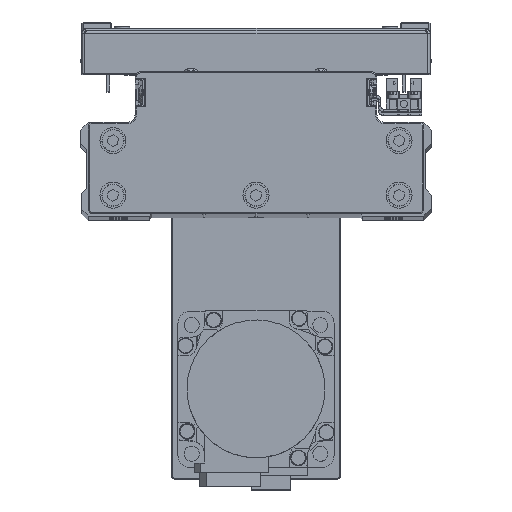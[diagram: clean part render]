
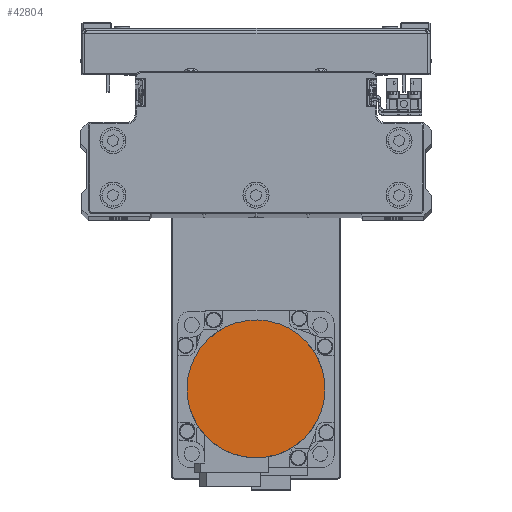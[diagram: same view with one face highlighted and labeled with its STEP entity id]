
A CAD part, top view. The second image highlights one B-rep face of the part: STEP entity #42804.
In plain terms, the highlighted planar face has unit normal (0, 0, 1) as drawn and (0, 0, -1) by its records, which use the part's own axes.
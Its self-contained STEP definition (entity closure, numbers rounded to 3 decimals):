
#839 = PLANE ( 'NONE',  #8414 ) ;
#861 = CARTESIAN_POINT ( 'NONE',  ( -16.165, -21.07, -109.7 ) ) ;
#1074 = CARTESIAN_POINT ( 'NONE',  ( 16.165, -21.07, -109.7 ) ) ;
#1288 = EDGE_LOOP ( 'NONE', ( #41253, #35208 ) ) ;
#1605 = CARTESIAN_POINT ( 'NONE',  ( 26.329, 3.469, -109.7 ) ) ;
#1830 = CARTESIAN_POINT ( 'NONE',  ( 3.469, 26.329, -109.7 ) ) ;
#2056 = CARTESIAN_POINT ( 'NONE',  ( -23.819, 11.744, -109.7 ) ) ;
#4231 = CARTESIAN_POINT ( 'NONE',  ( -21.07, -16.165, -109.7 ) ) ;
#4457 = CARTESIAN_POINT ( 'NONE',  ( 8.539, -25.147, -109.7 ) ) ;
#4675 = CARTESIAN_POINT ( 'NONE',  ( 26.5, 0., -109.7 ) ) ;
#5213 = CARTESIAN_POINT ( 'NONE',  ( 11.744, 23.819, -109.7 ) ) ;
#5427 = CARTESIAN_POINT ( 'NONE',  ( -19.965, 17.512, -109.7 ) ) ;
#7604 = CARTESIAN_POINT ( 'NONE',  ( -25.147, -8.539, -109.7 ) ) ;
#7829 = CARTESIAN_POINT ( 'NONE',  ( 1.734, -26.5, -109.7 ) ) ;
#8055 = CARTESIAN_POINT ( 'NONE',  ( 25.652, -6.871, -109.7 ) ) ;
#8414 = AXIS2_PLACEMENT_3D ( 'NONE', #14570, #28210, #41862 ) ;
#8584 = CARTESIAN_POINT ( 'NONE',  ( 17.512, 19.965, -109.7 ) ) ;
#8810 = CARTESIAN_POINT ( 'NONE',  ( -13.28, 22.998, -109.7 ) ) ;
#10985 = CARTESIAN_POINT ( 'NONE',  ( -26.5, -1.734, -109.7 ) ) ;
#11200 = CARTESIAN_POINT ( 'NONE',  ( -6.871, -25.652, -109.7 ) ) ;
#11439 = CARTESIAN_POINT ( 'NONE',  ( 22.998, -13.28, -109.7 ) ) ;
#11953 = CARTESIAN_POINT ( 'NONE',  ( 22.998, 13.28, -109.7 ) ) ;
#12189 = CARTESIAN_POINT ( 'NONE',  ( -6.871, 25.652, -109.7 ) ) ;
#12410 = CARTESIAN_POINT ( 'NONE',  ( -26.5, 1.734, -109.7 ) ) ;
#13160 = CARTESIAN_POINT ( 'NONE',  ( 26.5, 0., -109.7 ) ) ;
#14570 = CARTESIAN_POINT ( 'NONE',  ( 0., 0., -109.7 ) ) ;
#14591 = CARTESIAN_POINT ( 'NONE',  ( -13.28, -22.998, -109.7 ) ) ;
#14810 = CARTESIAN_POINT ( 'NONE',  ( 17.512, -19.965, -109.7 ) ) ;
#15340 = CARTESIAN_POINT ( 'NONE',  ( 25.652, 6.871, -109.7 ) ) ;
#15566 = CARTESIAN_POINT ( 'NONE',  ( 1.734, 26.5, -109.7 ) ) ;
#15794 = CARTESIAN_POINT ( 'NONE',  ( -25.147, 8.539, -109.7 ) ) ;
#17966 = CARTESIAN_POINT ( 'NONE',  ( -19.965, -17.512, -109.7 ) ) ;
#18185 = CARTESIAN_POINT ( 'NONE',  ( 11.744, -23.819, -109.7 ) ) ;
#18712 = CARTESIAN_POINT ( 'NONE',  ( 26.5, 0., -109.7 ) ) ;
#18934 = CARTESIAN_POINT ( 'NONE',  ( 8.539, 25.147, -109.7 ) ) ;
#19153 = CARTESIAN_POINT ( 'NONE',  ( -21.07, 16.165, -109.7 ) ) ;
#21308 = CARTESIAN_POINT ( 'NONE',  ( -23.819, -11.744, -109.7 ) ) ;
#21545 = CARTESIAN_POINT ( 'NONE',  ( 3.469, -26.329, -109.7 ) ) ;
#21761 = CARTESIAN_POINT ( 'NONE',  ( 26.329, -3.469, -109.7 ) ) ;
#22296 = CARTESIAN_POINT ( 'NONE',  ( 16.165, 21.07, -109.7 ) ) ;
#22512 = CARTESIAN_POINT ( 'NONE',  ( -16.165, 21.07, -109.7 ) ) ;
#23708 = EDGE_CURVE ( 'NONE', #41183, #24450, #29704, .T. ) ;
#24450 = VERTEX_POINT ( 'NONE', #13160 ) ;
#24680 = CARTESIAN_POINT ( 'NONE',  ( -26.329, -3.469, -109.7 ) ) ;
#24892 = CARTESIAN_POINT ( 'NONE',  ( -3.469, -26.329, -109.7 ) ) ;
#25126 = CARTESIAN_POINT ( 'NONE',  ( 23.819, -11.744, -109.7 ) ) ;
#25642 = CARTESIAN_POINT ( 'NONE',  ( 21.07, 16.165, -109.7 ) ) ;
#25880 = CARTESIAN_POINT ( 'NONE',  ( -8.539, 25.147, -109.7 ) ) ;
#26090 = CARTESIAN_POINT ( 'NONE',  ( -26.5, 0., -109.7 ) ) ;
#28210 = DIRECTION ( 'NONE',  ( 0., 0., 1. ) ) ;
#28232 = CARTESIAN_POINT ( 'NONE',  ( -11.744, -23.819, -109.7 ) ) ;
#28442 = CARTESIAN_POINT ( 'NONE',  ( 19.965, -17.512, -109.7 ) ) ;
#28980 = CARTESIAN_POINT ( 'NONE',  ( 25.147, 8.539, -109.7 ) ) ;
#29198 = CARTESIAN_POINT ( 'NONE',  ( -1.734, 26.5, -109.7 ) ) ;
#29440 = CARTESIAN_POINT ( 'NONE',  ( -25.652, 6.871, -109.7 ) ) ;
#29704 = B_SPLINE_CURVE_WITH_KNOTS ( 'NONE', 3,
 ( #41671, #10985, #24680, #38309, #7604, #21308, #34958, #4231, #17966, #31612, #861, #14591, #28232, #41885, #11200, #24892, #38531, #7829, #21545, #35191, #4457, #18185, #31828, #1074, #14810, #28442, #42106, #11439, #25126, #38763, #8055, #21761, #35412, #4675 ),
 .UNSPECIFIED., .F., .F.,
 ( 4, 2, 2, 2, 2, 2, 2, 2, 2, 2, 2, 2, 2, 2, 2, 2, 4 ),
 ( 0., 0.063, 0.125, 0.188, 0.25, 0.312, 0.375, 0.437, 0.5, 0.562, 0.625, 0.687, 0.75, 0.813, 0.875, 0.938, 1. ),
 .UNSPECIFIED. ) ;
#31590 = FACE_OUTER_BOUND ( 'NONE', #1288, .T. ) ;
#31612 = CARTESIAN_POINT ( 'NONE',  ( -17.512, -19.965, -109.7 ) ) ;
#31828 = CARTESIAN_POINT ( 'NONE',  ( 13.28, -22.998, -109.7 ) ) ;
#32063 = CARTESIAN_POINT ( 'NONE',  ( -26.5, 0., -109.7 ) ) ;
#32347 = CARTESIAN_POINT ( 'NONE',  ( 26.5, 1.734, -109.7 ) ) ;
#32568 = CARTESIAN_POINT ( 'NONE',  ( 6.871, 25.652, -109.7 ) ) ;
#32794 = CARTESIAN_POINT ( 'NONE',  ( -22.998, 13.28, -109.7 ) ) ;
#34958 = CARTESIAN_POINT ( 'NONE',  ( -22.998, -13.28, -109.7 ) ) ;
#35191 = CARTESIAN_POINT ( 'NONE',  ( 6.871, -25.652, -109.7 ) ) ;
#35208 = ORIENTED_EDGE ( 'NONE', *, *, #23708, .F. ) ;
#35412 = CARTESIAN_POINT ( 'NONE',  ( 26.5, -1.734, -109.7 ) ) ;
#35943 = CARTESIAN_POINT ( 'NONE',  ( 13.28, 22.998, -109.7 ) ) ;
#36157 = CARTESIAN_POINT ( 'NONE',  ( -17.512, 19.965, -109.7 ) ) ;
#36721 = B_SPLINE_CURVE_WITH_KNOTS ( 'NONE', 3,
 ( #18712, #32347, #1605, #15340, #28980, #42628, #11953, #25642, #39281, #8584, #22296, #35943, #5213, #18934, #32568, #1830, #15566, #29198, #42852, #12189, #25880, #39509, #8810, #22512, #36157, #5427, #19153, #32794, #2056, #15794, #29440, #43078, #12410, #26090 ),
 .UNSPECIFIED., .F., .F.,
 ( 4, 2, 2, 2, 2, 2, 2, 2, 2, 2, 2, 2, 2, 2, 2, 2, 4 ),
 ( 0., 0.062, 0.125, 0.187, 0.25, 0.312, 0.375, 0.437, 0.5, 0.562, 0.625, 0.687, 0.75, 0.813, 0.875, 0.938, 1. ),
 .UNSPECIFIED. ) ;
#38309 = CARTESIAN_POINT ( 'NONE',  ( -25.652, -6.871, -109.7 ) ) ;
#38531 = CARTESIAN_POINT ( 'NONE',  ( -1.734, -26.5, -109.7 ) ) ;
#38763 = CARTESIAN_POINT ( 'NONE',  ( 25.147, -8.539, -109.7 ) ) ;
#39281 = CARTESIAN_POINT ( 'NONE',  ( 19.965, 17.512, -109.7 ) ) ;
#39509 = CARTESIAN_POINT ( 'NONE',  ( -11.744, 23.819, -109.7 ) ) ;
#40534 = EDGE_CURVE ( 'NONE', #24450, #41183, #36721, .T. ) ;
#41183 = VERTEX_POINT ( 'NONE', #32063 ) ;
#41253 = ORIENTED_EDGE ( 'NONE', *, *, #40534, .F. ) ;
#41671 = CARTESIAN_POINT ( 'NONE',  ( -26.5, 0., -109.7 ) ) ;
#41862 = DIRECTION ( 'NONE',  ( 1., 0., 0. ) ) ;
#41885 = CARTESIAN_POINT ( 'NONE',  ( -8.539, -25.147, -109.7 ) ) ;
#42106 = CARTESIAN_POINT ( 'NONE',  ( 21.07, -16.165, -109.7 ) ) ;
#42628 = CARTESIAN_POINT ( 'NONE',  ( 23.819, 11.744, -109.7 ) ) ;
#42804 = ADVANCED_FACE ( 'NONE', ( #31590 ), #839, .F. ) ;
#42852 = CARTESIAN_POINT ( 'NONE',  ( -3.469, 26.329, -109.7 ) ) ;
#43078 = CARTESIAN_POINT ( 'NONE',  ( -26.329, 3.469, -109.7 ) ) ;
